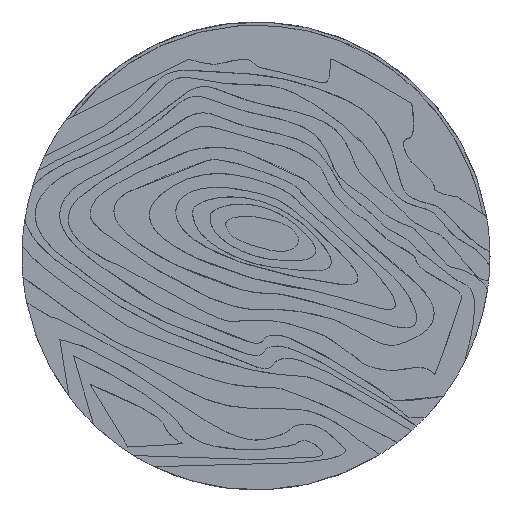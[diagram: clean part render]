
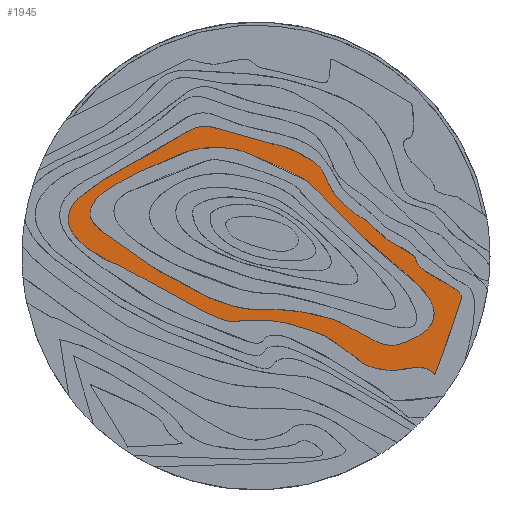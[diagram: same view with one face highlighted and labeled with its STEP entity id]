
A CAD part, top view. The second image highlights one B-rep face of the part: STEP entity #1945.
In plain terms, the highlighted planar face has unit normal (0, 0, 1).
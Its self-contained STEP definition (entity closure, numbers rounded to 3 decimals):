
#17=FACE_BOUND('',#272,.T.);
#72=PLANE('',#2037);
#160=FACE_OUTER_BOUND('',#271,.T.);
#271=EDGE_LOOP('',(#1653,#1654,#1655,#1656));
#272=EDGE_LOOP('',(#1657,#1658));
#624=B_SPLINE_CURVE_WITH_KNOTS('',3,(#4001,#4002,#4003,#4004,#4005,#4006,
#4007,#4008,#4009,#4010,#4011,#4012,#4013,#4014),.UNSPECIFIED.,.F.,.F.,
(4,2,2,2,2,2,4),(-10.,-9.,-8.,-7.,-6.,-5.,-4.),.UNSPECIFIED.);
#626=B_SPLINE_CURVE_WITH_KNOTS('',3,(#4080,#4081,#4082,#4083,#4084,#4085,
#4086,#4087,#4088,#4089,#4090,#4091,#4092,#4093,#4094,#4095,#4096,#4097,
#4098,#4099,#4100,#4101,#4102),.UNSPECIFIED.,.F.,.F.,(4,2,2,2,2,2,3,3,3,
4),(-19.,-18.,-17.,-16.,-15.,-14.,-13.,-12.,-11.,-10.),.UNSPECIFIED.);
#628=B_SPLINE_CURVE_WITH_KNOTS('',3,(#4137,#4138,#4139,#4140),
 .UNSPECIFIED.,.F.,.F.,(4,4),(-4.,-3.),.UNSPECIFIED.);
#630=B_SPLINE_CURVE_WITH_KNOTS('',3,(#4163,#4164,#4165,#4166,#4167,#4168,
#4169,#4170),.UNSPECIFIED.,.F.,.F.,(4,2,2,4),(-3.,-2.,-1.,0.),
 .UNSPECIFIED.);
#633=B_SPLINE_CURVE_WITH_KNOTS('',3,(#4245,#4246,#4247,#4248,#4249,#4250,
#4251,#4252,#4253,#4254,#4255,#4256,#4257,#4258,#4259,#4260,#4261,#4262,
#4263,#4264),.UNSPECIFIED.,.F.,.F.,(4,2,2,2,3,2,2,3,4),(-10.,-9.,-8.,-7.,
-6.,-5.,-4.,-3.,-2.),.UNSPECIFIED.);
#635=B_SPLINE_CURVE_WITH_KNOTS('',3,(#4284,#4285,#4286,#4287,#4288,#4289),
 .UNSPECIFIED.,.F.,.F.,(4,2,4),(-2.,-1.,0.),.UNSPECIFIED.);
#828=VERTEX_POINT('',#3999);
#829=VERTEX_POINT('',#4000);
#832=VERTEX_POINT('',#4079);
#834=VERTEX_POINT('',#4136);
#838=VERTEX_POINT('',#4242);
#839=VERTEX_POINT('',#4244);
#1103=EDGE_CURVE('',#828,#829,#624,.T.);
#1107=EDGE_CURVE('',#832,#828,#626,.T.);
#1110=EDGE_CURVE('',#829,#834,#628,.T.);
#1113=EDGE_CURVE('',#834,#832,#630,.T.);
#1117=EDGE_CURVE('',#838,#839,#633,.T.);
#1120=EDGE_CURVE('',#839,#838,#635,.T.);
#1653=ORIENTED_EDGE('',*,*,#1107,.F.);
#1654=ORIENTED_EDGE('',*,*,#1113,.F.);
#1655=ORIENTED_EDGE('',*,*,#1110,.F.);
#1656=ORIENTED_EDGE('',*,*,#1103,.F.);
#1657=ORIENTED_EDGE('',*,*,#1120,.F.);
#1658=ORIENTED_EDGE('',*,*,#1117,.F.);
#1945=ADVANCED_FACE('',(#160,#17),#72,.T.);
#2037=AXIS2_PLACEMENT_3D('',#4290,#2217,#2218);
#2217=DIRECTION('center_axis',(0.,0.,1.));
#2218=DIRECTION('ref_axis',(1.,0.,0.));
#3999=CARTESIAN_POINT('',(-122.067,41.006,12.));
#4000=CARTESIAN_POINT('',(72.143,27.437,12.));
#4001=CARTESIAN_POINT('Ctrl Pts',(-122.067,41.006,12.));
#4002=CARTESIAN_POINT('Ctrl Pts',(-122.067,41.006,12.));
#4003=CARTESIAN_POINT('Ctrl Pts',(-107.774,53.446,12.));
#4004=CARTESIAN_POINT('Ctrl Pts',(-65.44,73.907,12.));
#4005=CARTESIAN_POINT('Ctrl Pts',(-45.235,91.546,12.));
#4006=CARTESIAN_POINT('Ctrl Pts',(-22.667,88.724,12.));
#4007=CARTESIAN_POINT('Ctrl Pts',(-0.96,79.432,12.));
#4008=CARTESIAN_POINT('Ctrl Pts',(24.555,76.143,12.));
#4009=CARTESIAN_POINT('Ctrl Pts',(42.51,65.44,12.));
#4010=CARTESIAN_POINT('Ctrl Pts',(49.565,52.74,12.));
#4011=CARTESIAN_POINT('Ctrl Pts',(52.74,44.441,12.));
#4012=CARTESIAN_POINT('Ctrl Pts',(59.09,37.571,12.));
#4013=CARTESIAN_POINT('Ctrl Pts',(66.499,29.652,12.));
#4014=CARTESIAN_POINT('Ctrl Pts',(72.143,27.437,12.));
#4079=CARTESIAN_POINT('',(143.051,-28.475,12.));
#4080=CARTESIAN_POINT('Ctrl Pts',(143.051,-28.475,12.));
#4081=CARTESIAN_POINT('Ctrl Pts',(143.051,-28.475,12.));
#4082=CARTESIAN_POINT('Ctrl Pts',(125.06,-84.137,12.));
#4083=CARTESIAN_POINT('Ctrl Pts',(122.244,-79.904,12.));
#4084=CARTESIAN_POINT('Ctrl Pts',(117.801,-75.52,12.));
#4085=CARTESIAN_POINT('Ctrl Pts',(89.279,-81.466,12.));
#4086=CARTESIAN_POINT('Ctrl Pts',(74.965,-76.376,12.));
#4087=CARTESIAN_POINT('Ctrl Pts',(70.026,-69.959,12.));
#4088=CARTESIAN_POINT('Ctrl Pts',(49.918,-56.268,12.));
#4089=CARTESIAN_POINT('Ctrl Pts',(45.685,-54.857,12.));
#4090=CARTESIAN_POINT('Ctrl Pts',(30.515,-47.801,12.));
#4091=CARTESIAN_POINT('Ctrl Pts',(-0.529,-42.862,12.));
#4092=CARTESIAN_POINT('Ctrl Pts',(-6.671,-45.685,12.));
#4093=CARTESIAN_POINT('Ctrl Pts',(-17.875,-45.448,12.));
#4094=CARTESIAN_POINT('Ctrl Pts',(-26.676,-45.262,12.));
#4095=CARTESIAN_POINT('Ctrl Pts',(-64.147,-24.165,12.));
#4096=CARTESIAN_POINT('Ctrl Pts',(-83.785,-12.171,12.));
#4097=CARTESIAN_POINT('Ctrl Pts',(-99.284,-2.704,12.));
#4098=CARTESIAN_POINT('Ctrl Pts',(-97.001,-8.525,12.));
#4099=CARTESIAN_POINT('Ctrl Pts',(-115.238,4.191,12.));
#4100=CARTESIAN_POINT('Ctrl Pts',(-144.751,24.769,12.));
#4101=CARTESIAN_POINT('Ctrl Pts',(-122.067,41.006,12.));
#4102=CARTESIAN_POINT('Ctrl Pts',(-122.067,41.006,12.));
#4136=CARTESIAN_POINT('',(93.31,10.042,12.));
#4137=CARTESIAN_POINT('Ctrl Pts',(72.143,27.437,12.));
#4138=CARTESIAN_POINT('Ctrl Pts',(77.787,25.224,12.));
#4139=CARTESIAN_POINT('Ctrl Pts',(88.018,12.852,12.));
#4140=CARTESIAN_POINT('Ctrl Pts',(93.31,10.042,12.));
#4163=CARTESIAN_POINT('Ctrl Pts',(93.31,10.042,12.));
#4164=CARTESIAN_POINT('Ctrl Pts',(98.601,7.232,12.));
#4165=CARTESIAN_POINT('Ctrl Pts',(106.01,3.26,12.));
#4166=CARTESIAN_POINT('Ctrl Pts',(112.36,-2.646,12.));
#4167=CARTESIAN_POINT('Ctrl Pts',(109.185,-2.646,12.));
#4168=CARTESIAN_POINT('Ctrl Pts',(119.062,-13.229,12.));
#4169=CARTESIAN_POINT('Ctrl Pts',(140.582,-20.79,12.));
#4170=CARTESIAN_POINT('Ctrl Pts',(143.051,-28.475,12.));
#4242=CARTESIAN_POINT('',(-111.704,38.422,12.));
#4244=CARTESIAN_POINT('',(-3.704,70.54,12.));
#4245=CARTESIAN_POINT('Ctrl Pts',(-111.704,38.422,12.));
#4246=CARTESIAN_POINT('Ctrl Pts',(-119.062,25.576,12.));
#4247=CARTESIAN_POINT('Ctrl Pts',(-119.415,23.107,12.));
#4248=CARTESIAN_POINT('Ctrl Pts',(-14.993,-43.878,12.));
#4249=CARTESIAN_POINT('Ctrl Pts',(6.526,-36.865,12.));
#4250=CARTESIAN_POINT('Ctrl Pts',(22.754,-37.518,12.));
#4251=CARTESIAN_POINT('Ctrl Pts',(30.515,-37.571,12.));
#4252=CARTESIAN_POINT('Ctrl Pts',(70.026,-48.384,12.));
#4253=CARTESIAN_POINT('Ctrl Pts',(84.889,-65.978,12.));
#4254=CARTESIAN_POINT('Ctrl Pts',(99.66,-61.207,12.));
#4255=CARTESIAN_POINT('Ctrl Pts',(140.07,-48.154,12.));
#4256=CARTESIAN_POINT('Ctrl Pts',(118.004,-26.282,12.));
#4257=CARTESIAN_POINT('Ctrl Pts',(110.949,-17.815,12.));
#4258=CARTESIAN_POINT('Ctrl Pts',(88.018,2.132,12.));
#4259=CARTESIAN_POINT('Ctrl Pts',(69.674,14.744,12.));
#4260=CARTESIAN_POINT('Ctrl Pts',(52.25,35.998,12.));
#4261=CARTESIAN_POINT('Ctrl Pts',(37.218,50.624,12.));
#4262=CARTESIAN_POINT('Ctrl Pts',(32.13,55.575,12.));
#4263=CARTESIAN_POINT('Ctrl Pts',(14.993,62.265,12.));
#4264=CARTESIAN_POINT('Ctrl Pts',(-3.704,70.54,12.));
#4284=CARTESIAN_POINT('Ctrl Pts',(-3.704,70.54,12.));
#4285=CARTESIAN_POINT('Ctrl Pts',(-22.401,78.814,12.));
#4286=CARTESIAN_POINT('Ctrl Pts',(-41.804,74.452,12.));
#4287=CARTESIAN_POINT('Ctrl Pts',(-54.504,70.54,12.));
#4288=CARTESIAN_POINT('Ctrl Pts',(-105.347,49.519,12.));
#4289=CARTESIAN_POINT('Ctrl Pts',(-111.704,38.422,12.));
#4290=CARTESIAN_POINT('Origin',(-0.85,3.704,12.));
